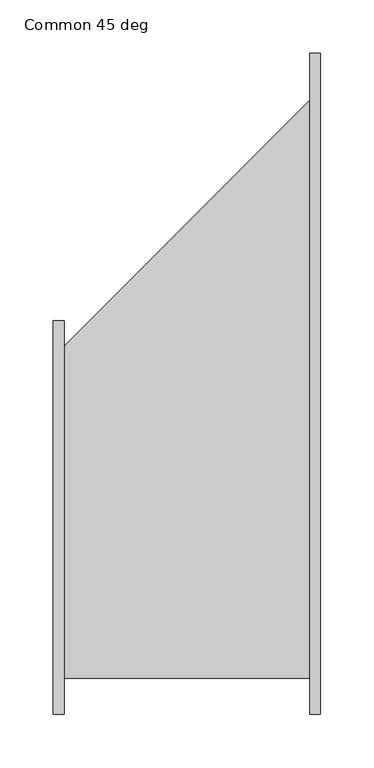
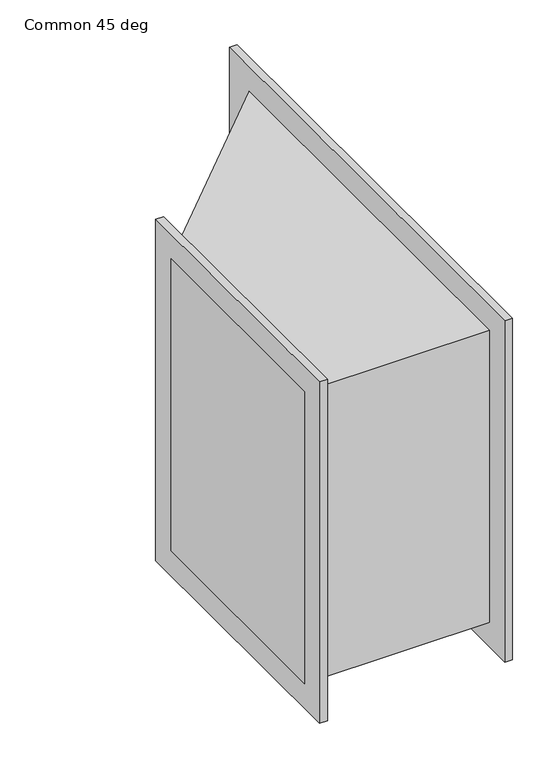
"""IFC4 building model written with IfcOpenShell, lengths in millimetres: duct fitting geometry, 041_角型置換 - フランジ - 角度 : Common 45 deg."""

from ifc_helpers import new_model, si_unit, frame, origin, place, context, project, spatial, polyline, outline, extrude, source, transform, mapped, element, save


def common_45_deg_045d3efe(model_context):
    return source(origin(), model_context, "Body", "SweptSolid", [
        extrude(outline(polyline([(0.0, -150.0), (0.0, 150.0), (250.0, 400.0), (250.0, -150.0), (0.0, -150.0)])), frame((0.0, 0.0, -200.0), z_axis=(0.0, 0.0, 1.0), x_axis=(1.0, 0.0, 0.0)), (0.0, 0.0, 1.0), 400.0),
        extrude(outline(polyline([(250.0, 434.0), (250.0, -184.0), (240.0, -184.0), (240.0, 434.0), (250.0, 434.0)])), frame((0.0, 0.0, -234.0), z_axis=(0.0, 0.0, 1.0), x_axis=(1.0, 0.0, 0.0)), (0.0, 0.0, 1.0), 468.0),
        extrude(outline(polyline([(10.0, 184.0), (10.0, -184.0), (0.0, -184.0), (0.0, 184.0), (10.0, 184.0)])), frame((0.0, 0.0, -234.0), z_axis=(0.0, 0.0, 1.0), x_axis=(1.0, 0.0, 0.0)), (0.0, 0.0, 1.0), 468.0),
    ])


if __name__ == "__main__":
    model = new_model("IFC4")
    model_context = context("Model", 3, world=origin())
    ifc_project = project(units=[si_unit("LENGTHUNIT", "METRE", prefix="MILLI")], contexts=[model_context])
    site = spatial("IfcSite", under=ifc_project)
    building = spatial("IfcBuilding", under=site)
    placement = place(None, origin())
    common_45_deg_shape = common_45_deg_045d3efe(model_context)
    element("IfcDuctFitting", 1, ObjectType="041_角型置換 - フランジ - 角度 : Common 45 deg", at=placement, inside=building, context=model_context, shape_type="MappedRepresentation", body=[
        mapped(common_45_deg_shape, transform((0.0, 0.0, 0.0), x_axis=(1.0, 0.0, 0.0), y_axis=(0.0, 1.0, 0.0), z_axis=(0.0, 0.0, 1.0))),
    ])
    save(model, "model.ifc")
